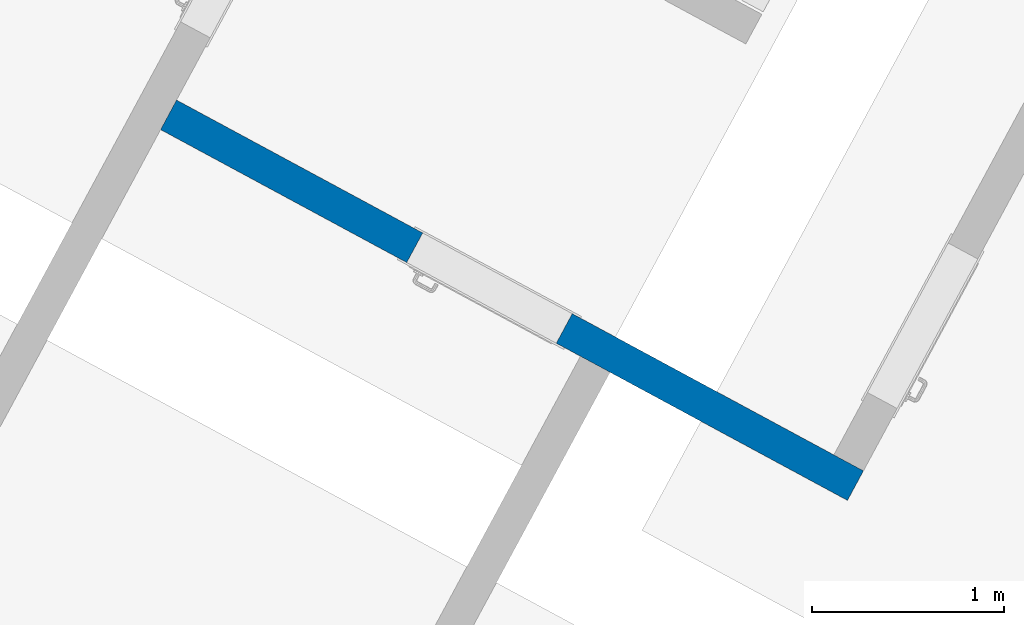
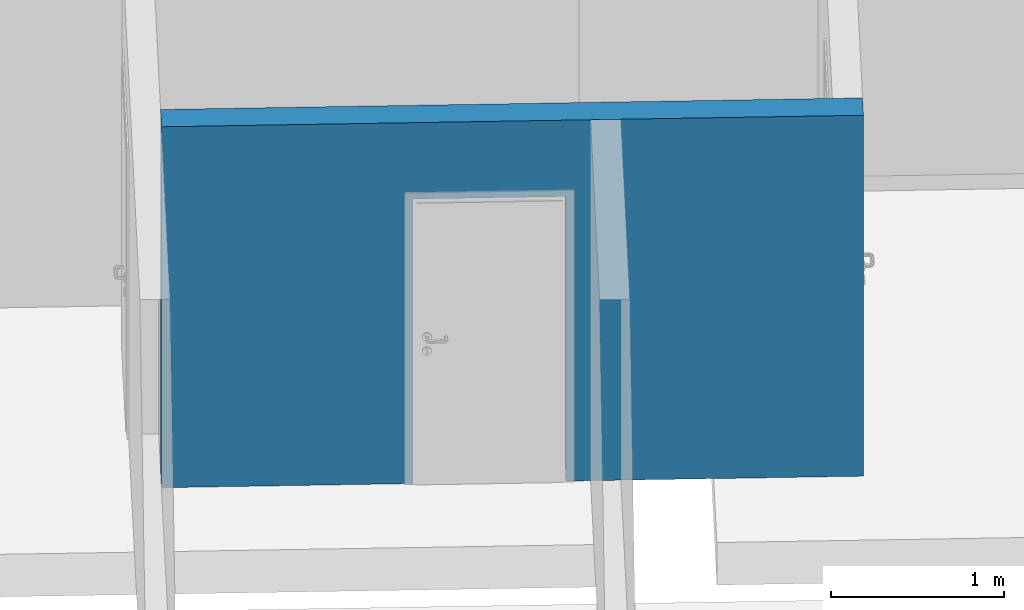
# One storey, part 1 of 7: 1 wall, 1 opening.
"""IFC2X3 building model written with IfcOpenShell, lengths in metres."""

from ifc_helpers import new_model, entity, si_unit, converted_unit, derived_unit, money_unit, direction, frame, origin_with_axes, origin_2d_with_axis, place, context, subcontext, project, spatial, rectangle, extrude, faceted_brep, material, type_object, element, save


model = new_model("IFC2X3")

# Units and contexts
model_context = context("Model", 3, precision=1e-05, world=origin_with_axes(), true_north=direction((0.0, 1.0)))
body_context = subcontext(model_context, "Body", "Model", "MODEL_VIEW")
ifc_project = project(units=[si_unit("LENGTHUNIT", "METRE"), si_unit("AREAUNIT", "SQUARE_METRE"), si_unit("VOLUMEUNIT", "CUBIC_METRE"), converted_unit("PLANEANGLEUNIT", "DEGREE", entity("IfcPlaneAngleMeasure", 0.0174532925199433), si_unit("PLANEANGLEUNIT", "RADIAN"), dimensions=[0, 0, 0, 0, 0, 0, 0]), money_unit("EUR"), converted_unit("TIMEUNIT", "Year", entity("IfcTimeMeasure", 31556926.0), si_unit("TIMEUNIT", "SECOND"), dimensions=[0, 0, 1, 0, 0, 0, 0]), si_unit("MASSUNIT", "GRAM", prefix="KILO"), si_unit("THERMODYNAMICTEMPERATUREUNIT", "DEGREE_CELSIUS"), si_unit("LUMINOUSINTENSITYUNIT", "LUMEN"), si_unit("ENERGYUNIT", "JOULE", prefix="MEGA"), derived_unit("THERMALCONDUCTANCEUNIT", [(si_unit("POWERUNIT", "WATT"), 1), (si_unit("LENGTHUNIT", "METRE"), -1), (si_unit("THERMODYNAMICTEMPERATUREUNIT", "KELVIN"), -1)]), derived_unit("SPECIFICHEATCAPACITYUNIT", [(si_unit("ENERGYUNIT", "JOULE"), 1), (si_unit("MASSUNIT", "GRAM", prefix="KILO"), -1), (si_unit("THERMODYNAMICTEMPERATUREUNIT", "KELVIN"), -1)]), derived_unit("MASSDENSITYUNIT", [(si_unit("MASSUNIT", "GRAM", prefix="KILO"), 1), (si_unit("VOLUMEUNIT", "CUBIC_METRE"), -1)])], contexts=[model_context])

# Site, building, storey
site_placement = place(None, frame((-3.949935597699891, 1.740105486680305, 0.0), z_axis=(0.0, 0.0, 1.0), x_axis=(0.8799804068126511, -0.475009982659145, 0.0)))
site = spatial("IfcSite", under=ifc_project, at=site_placement, Name="Gelände", CompositionType="ELEMENT")
building_placement = place(site_placement, origin_with_axes())
building = spatial("IfcBuilding", under=site, at=building_placement, Name="Gebäude", CompositionType="ELEMENT")
storey_placement = place(building_placement, frame((0.0, 0.0, -2.98), z_axis=(0.0, 0.0, 1.0), x_axis=(1.0, 0.0, 0.0)))
storey = spatial("IfcBuildingStorey", under=building, at=storey_placement, Name="Kellergeschoss", CompositionType="ELEMENT", Elevation=-2.98)

# Wall, opening
ifc_material = material(Name="_SIWH - MW Kalksandstein")
wall_type = type_object("IfcWallType", Name="_SIWH - WI | KS 17,5 | 17,5cm 175", PredefinedType="NOTDEFINED")
wall_placement = place(storey_placement, frame((7.702455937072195, 16.04969649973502, 0.0), z_axis=(0.0, 0.0, 1.0), x_axis=(1.0, 0.0, 0.0)))
wall = element("IfcWall", 1, at=wall_placement, inside=storey, type_object=wall_type, material=ifc_material, Name="I-Wand025", context=body_context, shape_type="Brep", body=[
    faceted_brep([(1.631802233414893, 0.0, 2.01), (1.631802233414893, 0.0, 0.0), (0.1750000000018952, 0.0, 0.0), (0.1750000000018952, 0.0, 2.55), (4.239952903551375, 0.0, 2.55), (4.239952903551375, 0.0, 0.0), (2.516802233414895, 0.0, 0.0), (2.516802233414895, 0.0, 2.01), (1.631802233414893, -0.1749999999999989, 2.01), (1.631802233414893, -0.1750000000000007, 0.0), (0.1750008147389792, -0.1750000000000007, 0.0), (0.1750008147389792, -0.1750000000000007, 2.55), (4.239953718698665, -0.1749999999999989, 2.55), (4.239953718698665, -0.1749999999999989, 0.0), (2.516802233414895, -0.1749999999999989, 0.0), (2.516802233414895, -0.1749999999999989, 2.01)], [[[0, 1, 2, 3, 4, 5, 6, 7]], [[1, 0, 8, 9]], [[1, 9, 10, 2]], [[11, 3, 2, 10]], [[4, 3, 11, 12]], [[12, 13, 5, 4]], [[14, 6, 5, 13]], [[7, 6, 14, 15]], [[0, 7, 15, 8]], [[15, 14, 13, 12, 11, 10, 9, 8]]]),
])
opening_placement = place(wall_placement, frame((2.074302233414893, 0.0, 0.0), z_axis=(0.0, 0.0, 1.0), x_axis=(1.0, 0.0, 0.0)))
element("IfcOpeningElement", 2, at=opening_placement, cuts=wall, Name="Tür-017", context=body_context, shape_type="SweptSolid", body=[
    extrude(rectangle(XDim=0.8850000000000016, YDim=2.01, at=origin_2d_with_axis()), frame((0.0, 0.1750000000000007, 1.005), z_axis=(0.0, 1.0, 0.0), x_axis=(1.0, 0.0, 0.0)), (0.0, 0.0, -1.0), 0.5249999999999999),
])

save(model, "model.ifc")
